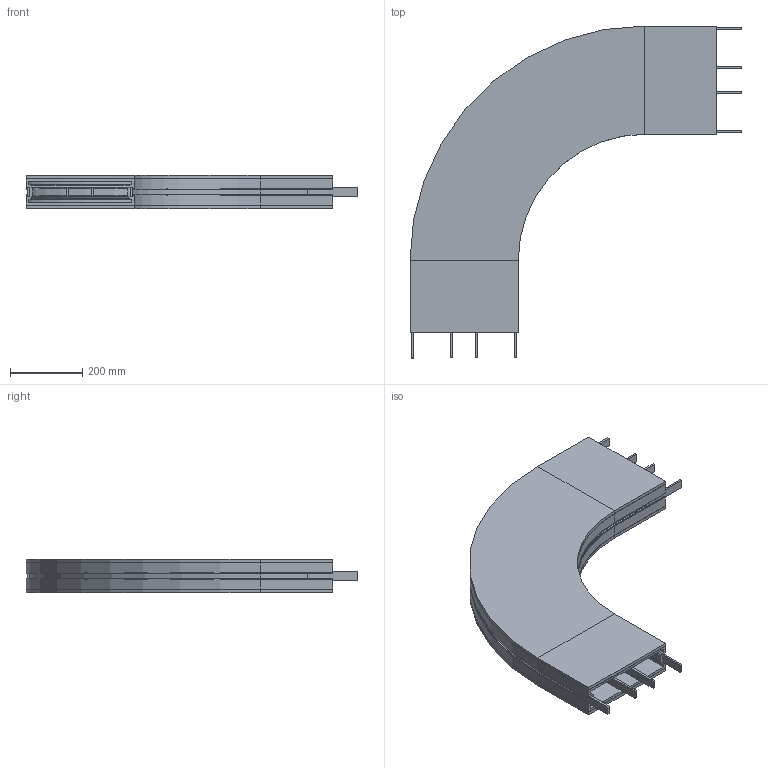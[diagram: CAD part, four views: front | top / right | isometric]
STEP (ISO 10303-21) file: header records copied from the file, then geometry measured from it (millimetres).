
FILE_DESCRIPTION (( 'STEP AP214' ), '1' );
FILE_NAME ('FBBP 90A300R500L200L200.00.step', '2026-05-29T10:20:40', ( '' ), ( '' ), 'SwSTEP 2.0', 'SolidWorks 2024', '' );
FILE_SCHEMA (( 'AUTOMOTIVE_DESIGN' ));
Length unit declared in the file: millimetre
Products named in the file (1): FBBP 90A300R500L200L200.00
Bounding box: 920 x 920 x 93 mm (x, y, z)
Volume: 12968767 mm3; surface area: 3387513.4 mm2
Topology: 11 solids, 11 shells, 375 faces, 845 edges, 492 vertices
Faces by surface type: plane 274, cone 66, cylinder 30, torus 5
Entity records: 10191 total; most frequent: DIRECTION 1724, CARTESIAN_POINT 1713, ORIENTED_EDGE 1690, EDGE_CURVE 845, LINE 718, VECTOR 718, AXIS2_PLACEMENT_3D 503, VERTEX_POINT 492
